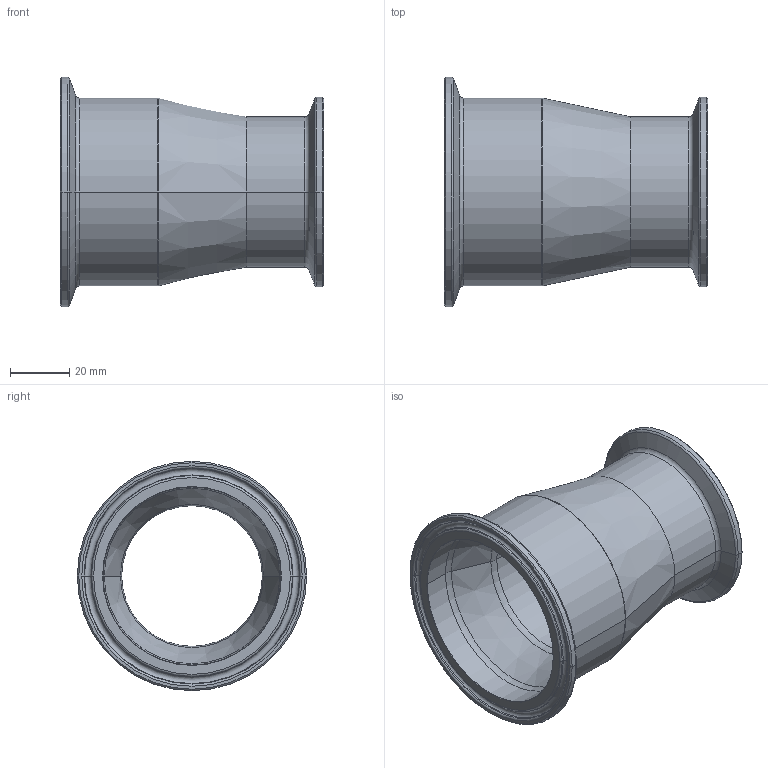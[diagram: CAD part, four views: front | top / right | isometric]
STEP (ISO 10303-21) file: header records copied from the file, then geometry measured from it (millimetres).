
FILE_DESCRIPTION (( 'STEP AP214' ), '1' );
FILE_NAME ('TEG31SCC6I2.5x2.0.STEP', '2016-05-29T14:35:31', ( 'eran' ), ( '' ), 'SwSTEP 2.0', 'SolidWorks 2016', '' );
FILE_SCHEMA (( 'AUTOMOTIVE_DESIGN' ));
Length unit declared in the file: millimetre
Products named in the file (1): TEG31SCC6I2.5x2.0
Bounding box: 88.9 x 77.5 x 77.5 mm (x, y, z)
Volume: 67533.6 mm3; surface area: 36265 mm2
Topology: 1 solids, 1 shells, 66 faces, 132 edges, 70 vertices
Faces by surface type: torus 26, cone 24, cylinder 12, plane 4
Entity records: 1738 total; most frequent: DIRECTION 362, CARTESIAN_POINT 269, ORIENTED_EDGE 264, AXIS2_PLACEMENT_3D 163, EDGE_CURVE 132, CIRCLE 96, EDGE_LOOP 70, VERTEX_POINT 70
